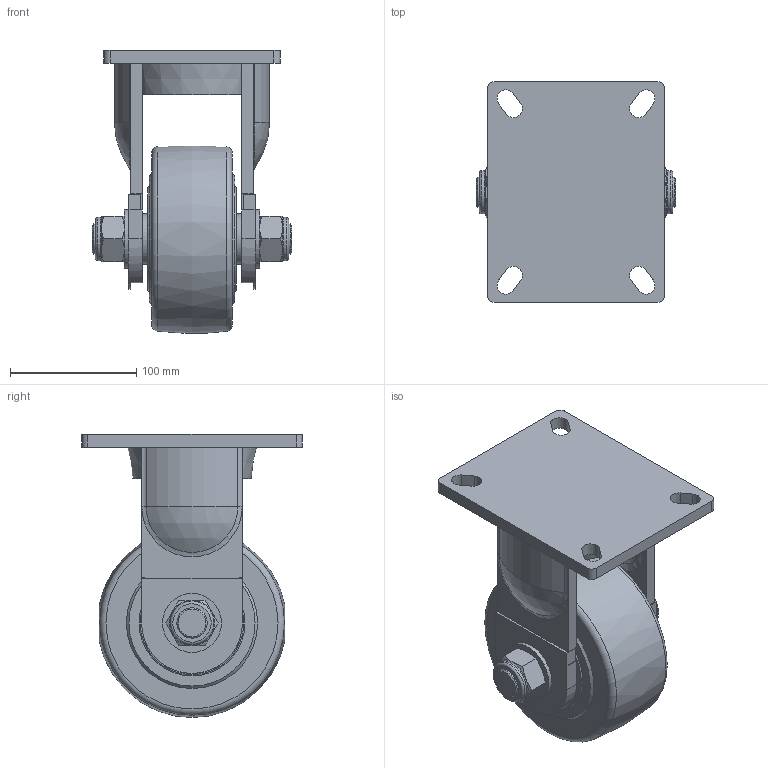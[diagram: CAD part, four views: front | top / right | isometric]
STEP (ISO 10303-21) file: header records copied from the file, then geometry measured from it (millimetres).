
FILE_DESCRIPTION((''),'2;1');
FILE_NAME('C:\Documents and Settings\Administrator\바탕 화면\3D STEP\GXT-SERIES\GXT-150\GXT-150-RF-HUD\GXT-150-RF(HUD).stp','2010-12-27T14:41:12',('Administrator'),(''),'Autodesk Inventor 2009','Autodesk Inventor 2009','');
FILE_SCHEMA(('AUTOMOTIVE_DESIGN { 1 0 10303 214 1 1 1 1 }'));
Length unit declared in the file: millimetre
Products named in the file (1): GXT-150-RF(HUD)
Bounding box: 158 x 175 x 224.48 mm (x, y, z)
Volume: 1720854.4 mm3; surface area: 228895.7 mm2
Topology: 8 solids, 8 shells, 238 faces, 574 edges, 372 vertices
Faces by surface type: plane 114, cylinder 71, bspline 20, cone 17, torus 12, sphere 4
Full cylindrical faces by diameter (mm): 22 x2, 24 x6, 24.3 x2, 24.5 x2, 26 x2, 30 x4, 34.4 x2, 35 x1, 40 x2, 40.667 x4, 46.7 x2, 51.333 x4, 55 x1, 62 x2, 78 x1
Entity records: 7296 total; most frequent: CARTESIAN_POINT 2083, DIRECTION 1080, ORIENTED_EDGE 958, EDGE_CURVE 479, AXIS2_PLACEMENT_3D 422, EDGE_LOOP 360, VERTEX_POINT 351, FACE_OUTER_BOUND 238
